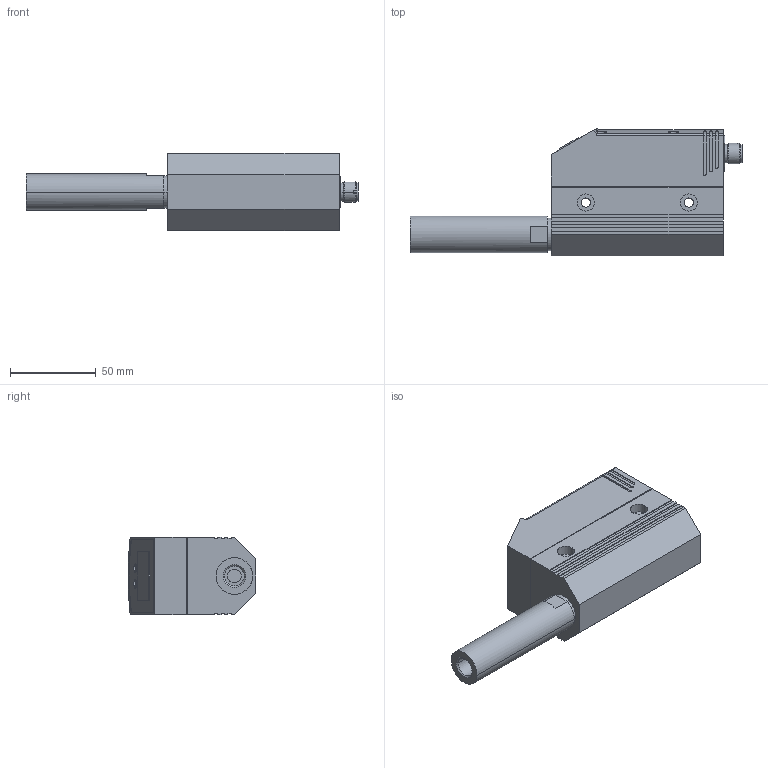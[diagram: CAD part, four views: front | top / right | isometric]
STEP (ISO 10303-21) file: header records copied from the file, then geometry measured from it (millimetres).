
FILE_DESCRIPTION( ( '' ), '1' );
FILE_NAME( '//expscmdclustefs.cadenas.external/client_exchange/iodir/jobs/output/wkb39663016_no0/STEP/sd5000_2_03_56fa68aab0d912ba39a93ed9979b71de.stp', '2011-12-01T09:23:31', ( '' ), ( '' ), ' ', ' ', ' ' );
FILE_SCHEMA( ( 'CONFIG_CONTROL_DESIGN' ) );
Length unit declared in the file: millimetre
Products named in the file (1): 1
Bounding box: 193.2 x 74.34 x 45 mm (x, y, z)
Volume: 319866.1 mm3; surface area: 41636.7 mm2
Topology: 1 solids, 1 shells, 222 faces, 594 edges, 394 vertices
Faces by surface type: plane 110, cylinder 92, cone 12, torus 8
Entity records: 7669 total; most frequent: CARTESIAN_POINT 1904, DIRECTION 1233, ORIENTED_EDGE 1188, EDGE_CURVE 594, AXIS2_PLACEMENT_3D 451, VERTEX_POINT 394, LINE 331, VECTOR 331
